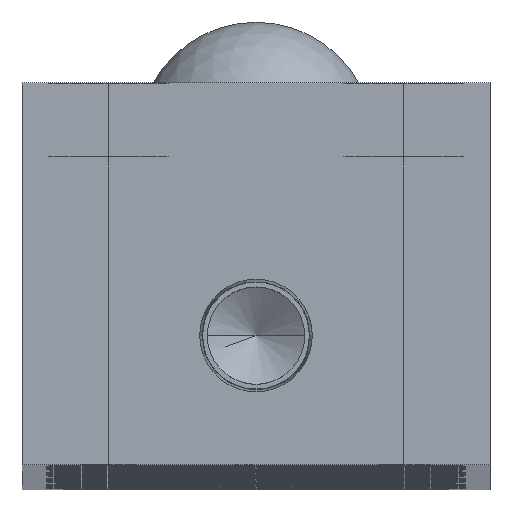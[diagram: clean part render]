
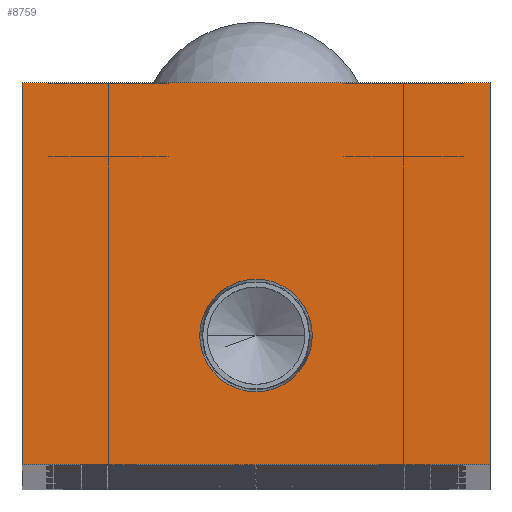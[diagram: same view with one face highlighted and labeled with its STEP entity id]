
A CAD part, top view. The second image highlights one B-rep face of the part: STEP entity #8759.
In plain terms, the highlighted planar face has unit normal (0, 0, 1).
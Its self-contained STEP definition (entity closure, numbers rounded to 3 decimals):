
#1042 = EDGE_CURVE ( 'NONE', #1758, #3655, #23759, .T. ) ;
#1228 = DIRECTION ( 'NONE',  ( -1., 0., 0. ) ) ;
#1744 = FACE_OUTER_BOUND ( 'NONE', #18259, .T. ) ;
#1758 = VERTEX_POINT ( 'NONE', #10041 ) ;
#1976 = CARTESIAN_POINT ( 'NONE',  ( -19., 31., 0. ) ) ;
#2551 = VECTOR ( 'NONE', #11577, 1000. ) ;
#2820 = CARTESIAN_POINT ( 'NONE',  ( -4.574, 10.5, 0. ) ) ;
#2903 = AXIS2_PLACEMENT_3D ( 'NONE', #7928, #22337, #10012 ) ;
#3655 = VERTEX_POINT ( 'NONE', #4581 ) ;
#4170 = ORIENTED_EDGE ( 'NONE', *, *, #16674, .T. ) ;
#4581 = CARTESIAN_POINT ( 'NONE',  ( -19., 31., 0. ) ) ;
#4584 = EDGE_CURVE ( 'NONE', #9885, #1758, #7405, .T. ) ;
#5438 = LINE ( 'NONE', #13560, #10268 ) ;
#5931 = EDGE_CURVE ( 'NONE', #15555, #9666, #25666, .T. ) ;
#6191 = ORIENTED_EDGE ( 'NONE', *, *, #5931, .F. ) ;
#7405 = LINE ( 'NONE', #21835, #2551 ) ;
#7787 = CARTESIAN_POINT ( 'NONE',  ( 19., 0., 0. ) ) ;
#7928 = CARTESIAN_POINT ( 'NONE',  ( 0., 10.5, 0. ) ) ;
#8759 = ADVANCED_FACE ( 'NONE', ( #12096, #1744 ), #11508, .F. ) ;
#9275 = CIRCLE ( 'NONE', #2903, 4.574 ) ;
#9377 = EDGE_LOOP ( 'NONE', ( #25580, #6191 ) ) ;
#9666 = VERTEX_POINT ( 'NONE', #13000 ) ;
#9885 = VERTEX_POINT ( 'NONE', #11781 ) ;
#10012 = DIRECTION ( 'NONE',  ( 1., 0., 0. ) ) ;
#10041 = CARTESIAN_POINT ( 'NONE',  ( 19., 31., 0. ) ) ;
#10143 = CARTESIAN_POINT ( 'NONE',  ( 0., 10.5, 0. ) ) ;
#10268 = VECTOR ( 'NONE', #19770, 1000. ) ;
#11360 = AXIS2_PLACEMENT_3D ( 'NONE', #15604, #13623, #1228 ) ;
#11508 = PLANE ( 'NONE',  #11360 ) ;
#11577 = DIRECTION ( 'NONE',  ( 0., 1., 0. ) ) ;
#11781 = CARTESIAN_POINT ( 'NONE',  ( 19., 0., 0. ) ) ;
#12096 = FACE_BOUND ( 'NONE', #9377, .T. ) ;
#12230 = DIRECTION ( 'NONE',  ( 1., 0., 0. ) ) ;
#13000 = CARTESIAN_POINT ( 'NONE',  ( 4.574, 10.5, 0. ) ) ;
#13560 = CARTESIAN_POINT ( 'NONE',  ( -19., 0., 0. ) ) ;
#13623 = DIRECTION ( 'NONE',  ( 0., 0., -1. ) ) ;
#14858 = ORIENTED_EDGE ( 'NONE', *, *, #4584, .T. ) ;
#15555 = VERTEX_POINT ( 'NONE', #2820 ) ;
#15604 = CARTESIAN_POINT ( 'NONE',  ( 0., 0., 0. ) ) ;
#16312 = VECTOR ( 'NONE', #24342, 1000. ) ;
#16674 = EDGE_CURVE ( 'NONE', #3655, #24404, #5438, .T. ) ;
#18259 = EDGE_LOOP ( 'NONE', ( #4170, #23104, #14858, #18398 ) ) ;
#18283 = VECTOR ( 'NONE', #26654, 1000. ) ;
#18398 = ORIENTED_EDGE ( 'NONE', *, *, #1042, .T. ) ;
#19770 = DIRECTION ( 'NONE',  ( 0., -1., 0. ) ) ;
#20328 = EDGE_CURVE ( 'NONE', #24404, #9885, #21768, .T. ) ;
#21768 = LINE ( 'NONE', #7787, #16312 ) ;
#21835 = CARTESIAN_POINT ( 'NONE',  ( 19., 31., 0. ) ) ;
#22337 = DIRECTION ( 'NONE',  ( 0., 0., 1. ) ) ;
#23104 = ORIENTED_EDGE ( 'NONE', *, *, #20328, .T. ) ;
#23220 = AXIS2_PLACEMENT_3D ( 'NONE', #10143, #24549, #12230 ) ;
#23688 = CARTESIAN_POINT ( 'NONE',  ( -19., 0., 0. ) ) ;
#23759 = LINE ( 'NONE', #1976, #18283 ) ;
#24342 = DIRECTION ( 'NONE',  ( 1., 0., 0. ) ) ;
#24404 = VERTEX_POINT ( 'NONE', #23688 ) ;
#24549 = DIRECTION ( 'NONE',  ( 0., 0., 1. ) ) ;
#25580 = ORIENTED_EDGE ( 'NONE', *, *, #25704, .F. ) ;
#25666 = CIRCLE ( 'NONE', #23220, 4.574 ) ;
#25704 = EDGE_CURVE ( 'NONE', #9666, #15555, #9275, .T. ) ;
#26654 = DIRECTION ( 'NONE',  ( -1., 0., 0. ) ) ;
